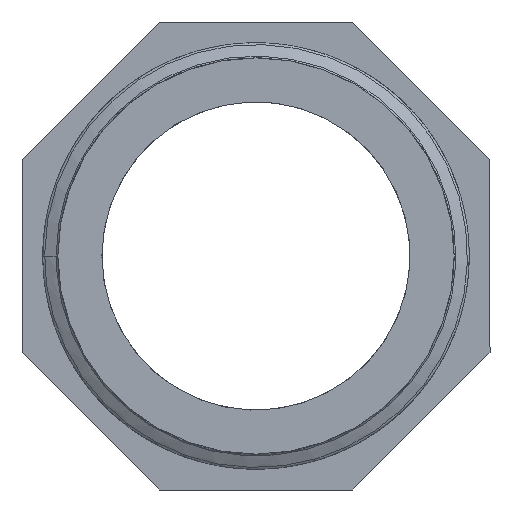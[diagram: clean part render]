
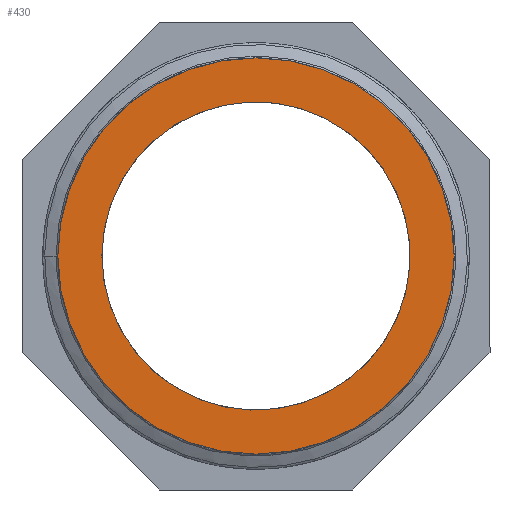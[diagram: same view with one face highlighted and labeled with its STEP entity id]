
A CAD part, front view. The second image highlights one B-rep face of the part: STEP entity #430.
In plain terms, the highlighted planar face has unit normal (0, -1, 0).
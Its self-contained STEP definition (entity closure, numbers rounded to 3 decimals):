
#17=FACE_BOUND('',#93,.T.);
#32=PLANE('',#455);
#37=CIRCLE('',#439,19.476);
#41=CIRCLE('',#454,15.146);
#65=FACE_OUTER_BOUND('',#92,.T.);
#92=EDGE_LOOP('',(#382));
#93=EDGE_LOOP('',(#383));
#186=VERTEX_POINT('',#2890);
#216=VERTEX_POINT('',#7378);
#234=EDGE_CURVE('',#186,#186,#37,.T.);
#276=EDGE_CURVE('',#216,#216,#41,.T.);
#382=ORIENTED_EDGE('',*,*,#234,.T.);
#383=ORIENTED_EDGE('',*,*,#276,.T.);
#430=ADVANCED_FACE('',(#65,#17),#32,.F.);
#439=AXIS2_PLACEMENT_3D('',#4266,#472,#473);
#454=AXIS2_PLACEMENT_3D('',#7379,#529,#530);
#455=AXIS2_PLACEMENT_3D('',#7380,#531,#532);
#472=DIRECTION('center_axis',(0.,-1.,0.));
#473=DIRECTION('ref_axis',(1.,0.,0.));
#529=DIRECTION('center_axis',(0.,1.,0.));
#530=DIRECTION('ref_axis',(1.,0.,0.));
#531=DIRECTION('center_axis',(0.,1.,0.));
#532=DIRECTION('ref_axis',(0.,0.,1.));
#2890=CARTESIAN_POINT('',(-19.476,0.,0.));
#4266=CARTESIAN_POINT('Origin',(0.,0.,0.));
#7378=CARTESIAN_POINT('',(-15.146,0.,0.));
#7379=CARTESIAN_POINT('Origin',(0.,0.,0.));
#7380=CARTESIAN_POINT('Origin',(0.,0.,0.));
